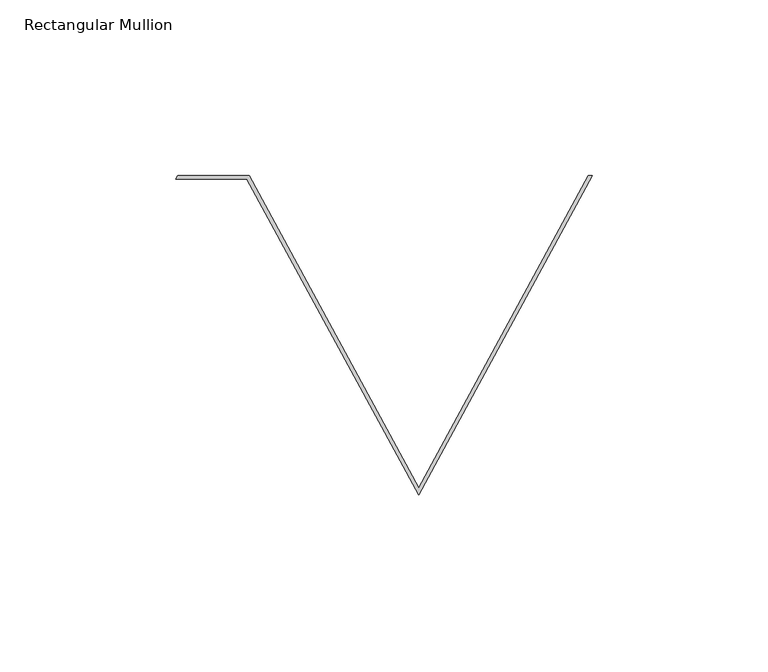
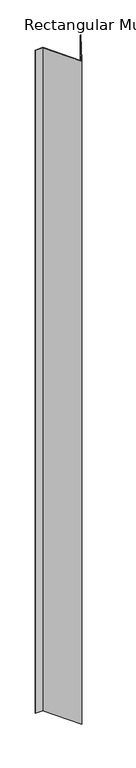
"""IFC4 building model written with IfcOpenShell, lengths in millimetres: member geometry, Rectangular Mullion : CD_NINELINE_Pleat Start Intermediate."""

from ifc_helpers import new_model, si_unit, frame, origin, place, context, project, spatial, polyline, outline, extrude, source, transform, mapped, element, save


def rectangular_mullion_7e84aa45(model_context):
    return source(origin(), model_context, "Body", "SweptSolid", [
        extrude(outline(polyline([(0.4089599, 0.0), (20.7310548, 0.0), (68.9999476, -88.9018164), (117.2688403, 0.0), (118.4089687, 0.0), (69.0, -91.0), (20.133987, -1.0), (-0.1339862, -1.0), (0.4089599, 0.0)])), frame((0.0, 0.0, -1812.9375), z_axis=(0.0, 0.0, 1.0), x_axis=(1.0, 0.0, 0.0)), (0.0, 0.0, 1.0), 1812.9375),
    ])


if __name__ == "__main__":
    model = new_model("IFC4")
    model_context = context("Model", 3, world=origin())
    ifc_project = project(units=[si_unit("LENGTHUNIT", "METRE", prefix="MILLI")], contexts=[model_context])
    site = spatial("IfcSite", under=ifc_project)
    building = spatial("IfcBuilding", under=site)
    placement = place(None, origin())
    rectangular_mullion_shape = rectangular_mullion_7e84aa45(model_context)
    element("IfcMember", 1, ObjectType="Rectangular Mullion : CD_NINELINE_Pleat Start Intermediate", at=placement, inside=building, context=model_context, shape_type="MappedRepresentation", body=[
        mapped(rectangular_mullion_shape, transform((0.0, 0.0, 0.0), x_axis=(1.0, 0.0, 0.0), y_axis=(0.0, 1.0, 0.0), z_axis=(0.0, 0.0, 1.0))),
    ])
    save(model, "model.ifc")
